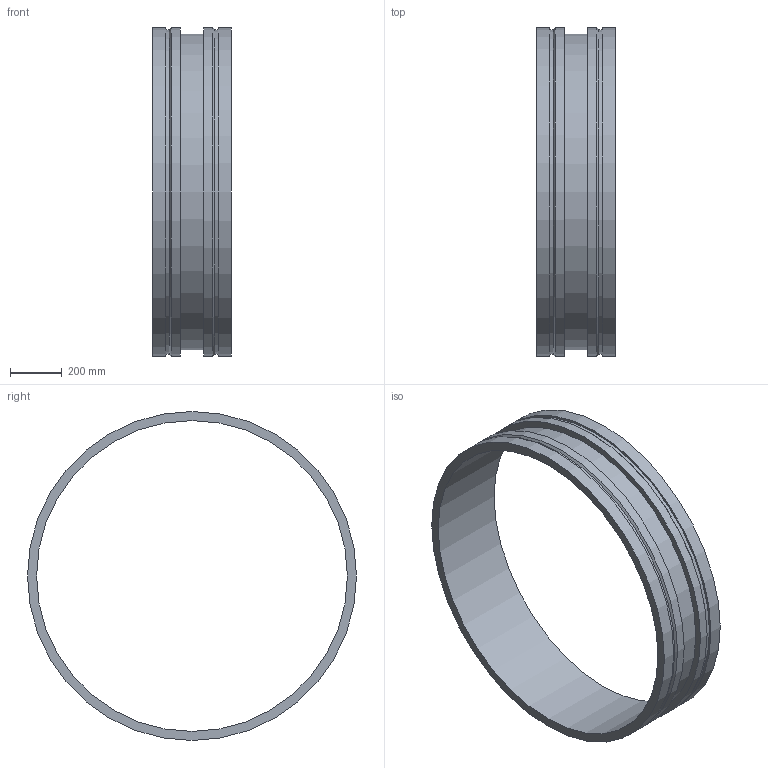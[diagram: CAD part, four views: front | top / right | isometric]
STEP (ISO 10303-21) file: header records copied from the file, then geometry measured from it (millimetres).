
FILE_DESCRIPTION(/* description */ ('VIC ADAPTER NIPPLE No W43 VR','CAx-IF Rec.Pracs.---Representation and Presentation of Product Manufacturing Information (PMI)---4.0---2014-10-13'),/* implementation_level */ '2;1');
FILE_NAME(/* name */ 'C:\Users\kkamble\AppData\Roaming\Autodesk\ApplicationPlugins\Back Up\Victaulic_Vic-Ring_Adapter Nipple_No W43 VR (AGR)\Victaulic_Vic-Ring_Adapter Nipple_No W43 VR (AGR)_48 (1200).stp',/* time_stamp */ '2020-09-10T11:31:57+05:00',/* author */ ('cps_temp'),/* organization */ ('Victaulic'),/* preprocessor_version */ 'ST-DEVELOPER v17.2',/* originating_system */ 'Autodesk Inventor 2019',/* authorisation */ '');
FILE_SCHEMA (('AP242_MANAGED_MODEL_BASED_3D_ENGINEERING_MIM_LF { 1 0 10303 442 1 1 4 }'));
Length unit declared in the file: inch
Products named in the file (1): W43 VR-48.0
Bounding box: 304.8 x 1270 x 1270 mm (x, y, z)
Volume: 31366619.1 mm3; surface area: 2911314.4 mm2
Topology: 1 solids, 1 shells, 16 faces, 42 edges, 32 vertices
Faces by surface type: cylinder 8, plane 6, cone 2
Full cylindrical faces by diameter (mm): 1200.15 x1, 1219.2 x1, 1254.125 x2, 1270 x4
Entity records: 686 total; most frequent: DIRECTION 134, CARTESIAN_POINT 108, ORIENTED_EDGE 84, AXIS2_PLACEMENT_3D 62, EDGE_CURVE 42, CIRCLE 32, VERTEX_POINT 32, EDGE_LOOP 22
